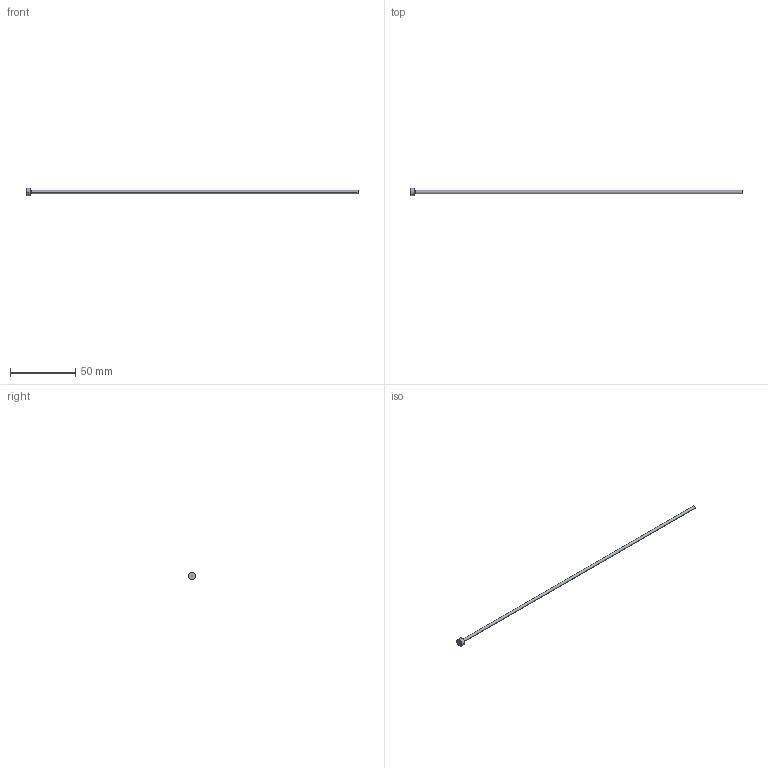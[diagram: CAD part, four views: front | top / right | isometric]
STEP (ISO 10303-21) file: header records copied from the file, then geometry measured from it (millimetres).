
FILE_DESCRIPTION (( 'STEP AP214' ), '1' );
FILE_NAME ('P7-10.STEP', '2020-03-11T17:11:37', ( '' ), ( '' ), 'SwSTEP 2.0', 'SolidWorks 2018', '' );
FILE_SCHEMA (( 'AUTOMOTIVE_DESIGN' ));
Length unit declared in the file: inch
Products named in the file (1): P7-10
Bounding box: 254 x 5.56 x 5.56 mm (x, y, z)
Volume: 1187.8 mm3; surface area: 1970 mm2
Topology: 1 solids, 1 shells, 13 faces, 24 edges, 14 vertices
Faces by surface type: cone 4, cylinder 4, plane 3, torus 2
Entity records: 366 total; most frequent: DIRECTION 68, CARTESIAN_POINT 52, ORIENTED_EDGE 48, AXIS2_PLACEMENT_3D 30, EDGE_CURVE 24, CIRCLE 16, VERTEX_POINT 14, EDGE_LOOP 14
